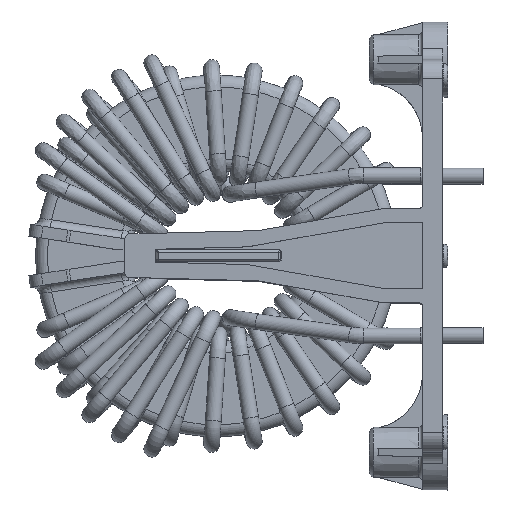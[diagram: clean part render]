
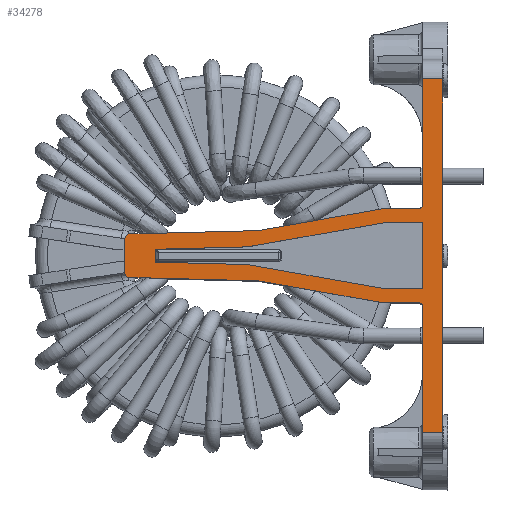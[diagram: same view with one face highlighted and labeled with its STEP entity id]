
A CAD part, top view. The second image highlights one B-rep face of the part: STEP entity #34278.
In plain terms, the highlighted planar face has unit normal (0, 0, 1).
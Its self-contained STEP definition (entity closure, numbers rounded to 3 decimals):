
#25011=CARTESIAN_POINT('',(2.729,2.127,31.9));
#25012=VERTEX_POINT('',#25011);
#25019=CARTESIAN_POINT('',(-9.,1.82,31.9));
#25020=VERTEX_POINT('',#25019);
#25021=CARTESIAN_POINT('',(-9.,1.82,31.9));
#25022=DIRECTION('',(1.,0.026,0.));
#25023=VECTOR('',#25022,11.733);
#25024=LINE('',#25021,#25023);
#25025=EDGE_CURVE('',#25020,#25012,#25024,.T.);
#25254=CARTESIAN_POINT('',(-9.,0.18,31.9));
#25255=VERTEX_POINT('',#25254);
#25256=CARTESIAN_POINT('',(-9.,0.18,31.9));
#25257=DIRECTION('',(0.0,1.0,0.0));
#25258=VECTOR('',#25257,1.64);
#25259=LINE('',#25256,#25258);
#25260=EDGE_CURVE('',#25255,#25020,#25259,.T.);
#25289=CARTESIAN_POINT('',(2.729,-0.127,31.9));
#25290=VERTEX_POINT('',#25289);
#25291=CARTESIAN_POINT('',(2.729,-0.127,31.9));
#25292=DIRECTION('',(-1.,0.026,0.));
#25293=VECTOR('',#25292,11.733);
#25294=LINE('',#25291,#25293);
#25295=EDGE_CURVE('',#25290,#25255,#25294,.T.);
#25730=CARTESIAN_POINT('',(-12.5,-1.763,31.9));
#25731=VERTEX_POINT('',#25730);
#25738=CARTESIAN_POINT('',(-13.,-1.25,31.9));
#25739=VERTEX_POINT('',#25738);
#25740=CARTESIAN_POINT('',(-12.5,-1.763,31.9));
#25741=DIRECTION('',(-0.698,0.716,0.));
#25742=VECTOR('',#25741,0.716);
#25743=LINE('',#25740,#25742);
#25744=EDGE_CURVE('',#25731,#25739,#25743,.T.);
#25761=CARTESIAN_POINT('',(-13.,3.25,31.9));
#25762=VERTEX_POINT('',#25761);
#25763=CARTESIAN_POINT('',(-13.,-1.25,31.9));
#25764=DIRECTION('',(0.0,1.0,0.0));
#25765=VECTOR('',#25764,4.5);
#25766=LINE('',#25763,#25765);
#25767=EDGE_CURVE('',#25739,#25762,#25766,.T.);
#25800=CARTESIAN_POINT('',(-12.5,3.763,31.9));
#25801=VERTEX_POINT('',#25800);
#25802=CARTESIAN_POINT('',(-13.,3.25,31.9));
#25803=DIRECTION('',(0.698,0.716,0.0));
#25804=VECTOR('',#25803,0.716);
#25805=LINE('',#25802,#25804);
#25806=EDGE_CURVE('',#25762,#25801,#25805,.T.);
#27924=CARTESIAN_POINT('',(24.5,7.,31.9));
#27925=VERTEX_POINT('',#27924);
#27932=CARTESIAN_POINT('',(25.,7.5,31.9));
#27933=VERTEX_POINT('',#27932);
#27934=CARTESIAN_POINT('',(24.5,7.5,31.9));
#27935=DIRECTION('',(0.,0.,1.0));
#27936=DIRECTION('',(0.707,-0.707,0.));
#27937=AXIS2_PLACEMENT_3D('',#27934,#27935,#27936);
#27938=CIRCLE('',#27937,0.5);
#27939=EDGE_CURVE('',#27925,#27933,#27938,.T.);
#28038=CARTESIAN_POINT('',(25.,23.5,31.9));
#28039=VERTEX_POINT('',#28038);
#28040=CARTESIAN_POINT('',(25.,7.5,31.9));
#28041=DIRECTION('',(0.0,1.0,0.0));
#28042=VECTOR('',#28041,16.);
#28043=LINE('',#28040,#28042);
#28044=EDGE_CURVE('',#27933,#28039,#28043,.T.);
#28310=CARTESIAN_POINT('',(20.,7.,31.9));
#28311=VERTEX_POINT('',#28310);
#28318=CARTESIAN_POINT('',(20.,7.,31.9));
#28319=DIRECTION('',(1.0,0.0,0.0));
#28320=VECTOR('',#28319,4.5);
#28321=LINE('',#28318,#28320);
#28322=EDGE_CURVE('',#28311,#27925,#28321,.T.);
#28332=CARTESIAN_POINT('',(25.,-5.5,31.9));
#28333=VERTEX_POINT('',#28332);
#28334=CARTESIAN_POINT('',(24.5,-5.,31.9));
#28335=VERTEX_POINT('',#28334);
#28336=CARTESIAN_POINT('',(24.5,-5.5,31.9));
#28337=DIRECTION('',(0.,0.,1.0));
#28338=DIRECTION('',(0.707,0.707,0.));
#28339=AXIS2_PLACEMENT_3D('',#28336,#28337,#28338);
#28340=CIRCLE('',#28339,0.5);
#28341=EDGE_CURVE('',#28333,#28335,#28340,.T.);
#28546=CARTESIAN_POINT('',(25.,-21.5,31.9));
#28547=VERTEX_POINT('',#28546);
#28555=CARTESIAN_POINT('',(25.,-21.5,31.9));
#28556=DIRECTION('',(0.0,1.0,0.0));
#28557=VECTOR('',#28556,16.);
#28558=LINE('',#28555,#28557);
#28559=EDGE_CURVE('',#28547,#28333,#28558,.T.);
#31200=CARTESIAN_POINT('',(20.,-5.,31.9));
#31201=VERTEX_POINT('',#31200);
#31208=CARTESIAN_POINT('',(4.109,-2.198,31.9));
#31209=VERTEX_POINT('',#31208);
#31210=CARTESIAN_POINT('',(20.,-5.,31.9));
#31211=DIRECTION('',(-0.985,0.174,0.));
#31212=VECTOR('',#31211,16.136);
#31213=LINE('',#31210,#31212);
#31214=EDGE_CURVE('',#31201,#31209,#31213,.T.);
#31233=CARTESIAN_POINT('',(4.109,-2.198,31.9));
#31234=DIRECTION('',(-1.,0.026,0.));
#31235=VECTOR('',#31234,16.615);
#31236=LINE('',#31233,#31235);
#31237=EDGE_CURVE('',#31209,#25731,#31236,.T.);
#31248=CARTESIAN_POINT('',(4.109,4.198,31.9));
#31249=VERTEX_POINT('',#31248);
#31250=CARTESIAN_POINT('',(-12.5,3.763,31.9));
#31251=DIRECTION('',(1.,0.026,0.));
#31252=VECTOR('',#31251,16.615);
#31253=LINE('',#31250,#31252);
#31254=EDGE_CURVE('',#25801,#31249,#31253,.T.);
#31273=CARTESIAN_POINT('',(4.109,4.198,31.9));
#31274=DIRECTION('',(0.985,0.174,0.));
#31275=VECTOR('',#31274,16.136);
#31276=LINE('',#31273,#31275);
#31277=EDGE_CURVE('',#31249,#28311,#31276,.T.);
#31290=CARTESIAN_POINT('',(20.157,-3.2,31.9));
#31291=VERTEX_POINT('',#31290);
#31292=CARTESIAN_POINT('',(20.157,-3.2,31.9));
#31293=DIRECTION('',(-0.985,0.174,0.));
#31294=VECTOR('',#31293,17.697);
#31295=LINE('',#31292,#31294);
#31296=EDGE_CURVE('',#31291,#25290,#31295,.T.);
#31314=CARTESIAN_POINT('',(25.,-3.2,31.9));
#31315=VERTEX_POINT('',#31314);
#31316=CARTESIAN_POINT('',(25.,-3.2,31.9));
#31317=DIRECTION('',(-1.0,0.0,0.0));
#31318=VECTOR('',#31317,4.843);
#31319=LINE('',#31316,#31318);
#31320=EDGE_CURVE('',#31315,#31291,#31319,.T.);
#31338=CARTESIAN_POINT('',(25.,5.2,31.9));
#31339=VERTEX_POINT('',#31338);
#31340=CARTESIAN_POINT('',(25.,5.2,31.9));
#31341=DIRECTION('',(0.0,-1.0,0.0));
#31342=VECTOR('',#31341,8.4);
#31343=LINE('',#31340,#31342);
#31344=EDGE_CURVE('',#31339,#31315,#31343,.T.);
#31362=CARTESIAN_POINT('',(20.157,5.2,31.9));
#31363=VERTEX_POINT('',#31362);
#31364=CARTESIAN_POINT('',(20.157,5.2,31.9));
#31365=DIRECTION('',(1.0,0.0,0.0));
#31366=VECTOR('',#31365,4.843);
#31367=LINE('',#31364,#31366);
#31368=EDGE_CURVE('',#31363,#31339,#31367,.T.);
#31386=CARTESIAN_POINT('',(2.729,2.127,31.9));
#31387=DIRECTION('',(0.985,0.174,0.));
#31388=VECTOR('',#31387,17.697);
#31389=LINE('',#31386,#31388);
#31390=EDGE_CURVE('',#25012,#31363,#31389,.T.);
#32575=CARTESIAN_POINT('',(24.5,-5.,31.9));
#32576=DIRECTION('',(-1.0,0.0,0.0));
#32577=VECTOR('',#32576,4.5);
#32578=LINE('',#32575,#32577);
#32579=EDGE_CURVE('',#28335,#31201,#32578,.T.);
#34213=CARTESIAN_POINT('',(27.6,-21.5,31.9));
#34214=VERTEX_POINT('',#34213);
#34215=CARTESIAN_POINT('',(25.,-21.5,31.9));
#34216=DIRECTION('',(1.0,0.0,0.0));
#34217=VECTOR('',#34216,2.6);
#34218=LINE('',#34215,#34217);
#34219=EDGE_CURVE('',#28547,#34214,#34218,.T.);
#34233=CARTESIAN_POINT('',(25.,-24.0,31.9));
#34234=DIRECTION('',(0.0,0.0,1.0));
#34235=DIRECTION('',(-1.0,0.0,0.0));
#34236=AXIS2_PLACEMENT_3D('',#34233,#34234,#34235);
#34237=PLANE('',#34236);
#34238=ORIENTED_EDGE('',*,*,#25744,.F.);
#34239=ORIENTED_EDGE('',*,*,#31237,.F.);
#34240=ORIENTED_EDGE('',*,*,#31214,.F.);
#34241=ORIENTED_EDGE('',*,*,#32579,.F.);
#34242=ORIENTED_EDGE('',*,*,#28341,.F.);
#34243=ORIENTED_EDGE('',*,*,#28559,.F.);
#34244=ORIENTED_EDGE('',*,*,#34219,.T.);
#34245=CARTESIAN_POINT('',(27.6,23.5,31.9));
#34246=VERTEX_POINT('',#34245);
#34247=CARTESIAN_POINT('',(27.6,-21.5,31.9));
#34248=DIRECTION('',(0.0,1.0,0.0));
#34249=VECTOR('',#34248,45.0);
#34250=LINE('',#34247,#34249);
#34251=EDGE_CURVE('',#34214,#34246,#34250,.T.);
#34252=ORIENTED_EDGE('',*,*,#34251,.T.);
#34253=CARTESIAN_POINT('',(25.,23.5,31.9));
#34254=DIRECTION('',(1.0,0.0,0.0));
#34255=VECTOR('',#34254,2.6);
#34256=LINE('',#34253,#34255);
#34257=EDGE_CURVE('',#28039,#34246,#34256,.T.);
#34258=ORIENTED_EDGE('',*,*,#34257,.F.);
#34259=ORIENTED_EDGE('',*,*,#28044,.F.);
#34260=ORIENTED_EDGE('',*,*,#27939,.F.);
#34261=ORIENTED_EDGE('',*,*,#28322,.F.);
#34262=ORIENTED_EDGE('',*,*,#31277,.F.);
#34263=ORIENTED_EDGE('',*,*,#31254,.F.);
#34264=ORIENTED_EDGE('',*,*,#25806,.F.);
#34265=ORIENTED_EDGE('',*,*,#25767,.F.);
#34266=EDGE_LOOP('',(#34238,#34239,#34240,#34241,#34242,#34243,#34244,#34252,#34258,#34259,#34260,#34261,#34262,#34263,#34264,#34265));
#34267=FACE_OUTER_BOUND('',#34266,.T.);
#34268=ORIENTED_EDGE('',*,*,#25295,.T.);
#34269=ORIENTED_EDGE('',*,*,#25260,.T.);
#34270=ORIENTED_EDGE('',*,*,#25025,.T.);
#34271=ORIENTED_EDGE('',*,*,#31390,.T.);
#34272=ORIENTED_EDGE('',*,*,#31368,.T.);
#34273=ORIENTED_EDGE('',*,*,#31344,.T.);
#34274=ORIENTED_EDGE('',*,*,#31320,.T.);
#34275=ORIENTED_EDGE('',*,*,#31296,.T.);
#34276=EDGE_LOOP('',(#34268,#34269,#34270,#34271,#34272,#34273,#34274,#34275));
#34277=FACE_BOUND('',#34276,.T.);
#34278=ADVANCED_FACE('',(#34267,#34277),#34237,.T.);
